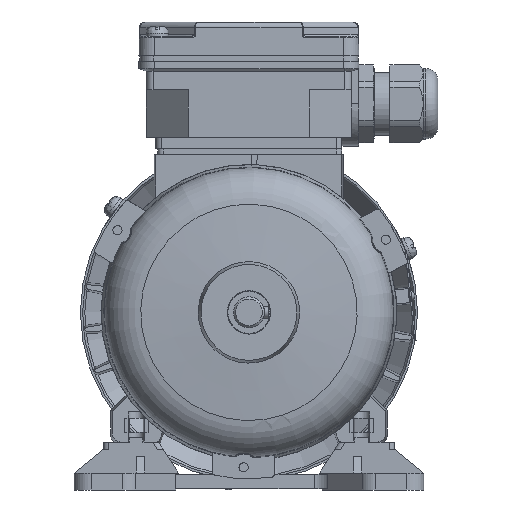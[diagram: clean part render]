
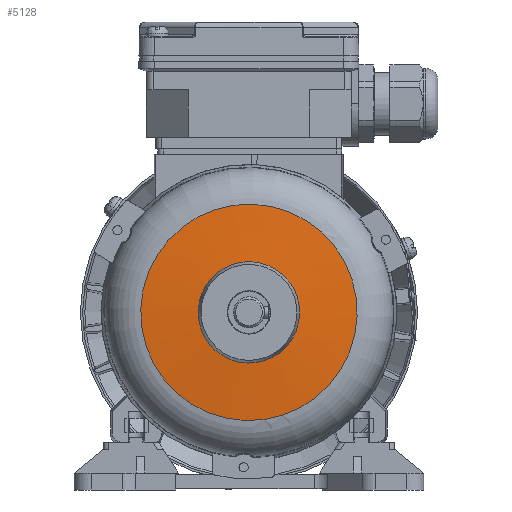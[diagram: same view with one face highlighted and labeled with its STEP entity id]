
A CAD part, left-side view. The second image highlights one B-rep face of the part: STEP entity #5128.
In plain terms, the highlighted conical face has half-angle 85.5 degrees and reference radius 38.379 mm.
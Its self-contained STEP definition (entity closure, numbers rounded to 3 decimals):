
#5128 = ADVANCED_FACE( '', ( #10575, #10576 ), #10577, .T. );
#10575 = FACE_BOUND( '', #23760, .T. );
#10576 = FACE_OUTER_BOUND( '', #23761, .T. );
#10577 = CONICAL_SURFACE( '', #23762, 38.379, 1.492 );
#23760 = EDGE_LOOP( '', ( #40352 ) );
#23761 = EDGE_LOOP( '', ( #40353 ) );
#23762 = AXIS2_PLACEMENT_3D( '', #40354, #40355, #40356 );
#40352 = ORIENTED_EDGE( '', *, *, #51734, .T. );
#40353 = ORIENTED_EDGE( '', *, *, #52263, .F. );
#40354 = CARTESIAN_POINT( '', ( 0., 0., 36.396 ) );
#40355 = DIRECTION( '', ( 0., 0., -1. ) );
#40356 = DIRECTION( '', ( -1., 0., 0. ) );
#51734 = EDGE_CURVE( '', #61529, #61529, #61530, .T. );
#52263 = EDGE_CURVE( '', #62210, #62210, #62211, .T. );
#61529 = VERTEX_POINT( '', #81380 );
#61530 = CIRCLE( '', #81381, 18. );
#62210 = VERTEX_POINT( '', #83104 );
#62211 = CIRCLE( '', #83105, 38.379 );
#81380 = CARTESIAN_POINT( '', ( -18., 0., 38. ) );
#81381 = AXIS2_PLACEMENT_3D( '', #91964, #91965, #91966 );
#83104 = CARTESIAN_POINT( '', ( -38.379, 0., 36.396 ) );
#83105 = AXIS2_PLACEMENT_3D( '', #92468, #92469, #92470 );
#91964 = CARTESIAN_POINT( '', ( 0., 0., 38. ) );
#91965 = DIRECTION( '', ( 0., 0., -1. ) );
#91966 = DIRECTION( '', ( -1., 0., 0. ) );
#92468 = CARTESIAN_POINT( '', ( 0., 0., 36.396 ) );
#92469 = DIRECTION( '', ( 0., 0., -1. ) );
#92470 = DIRECTION( '', ( -1., 0., 0. ) );
